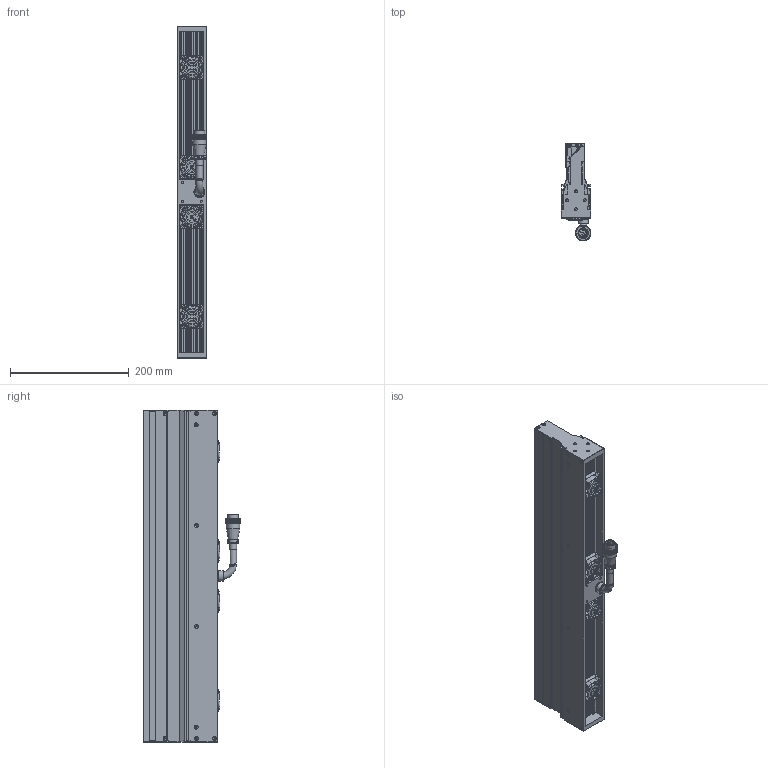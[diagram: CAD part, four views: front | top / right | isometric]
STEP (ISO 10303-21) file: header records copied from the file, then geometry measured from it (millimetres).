
FILE_DESCRIPTION (( 'STEP AP203' ), '1' );
FILE_NAME ('OPT-LSSC560-R-V3.1尨砩芞.STEP', '2025-02-19T08:27:13', ( '' ), ( '' ), 'SwSTEP 2.0', 'SolidWorks 2016', '' );
FILE_SCHEMA (( 'CONFIG_CONTROL_DESIGN' ));
Length unit declared in the file: millimetre
Products named in the file (1): OPT-LSSC560-R-V3.1尨砩芞
Bounding box: 50.6 x 164.5 x 560 mm (x, y, z)
Volume: 2152464.2 mm3; surface area: 387521.6 mm2
Topology: 25 solids, 33 shells, 2968 faces, 7706 edges, 4874 vertices
Faces by surface type: bspline 1051, cylinder 878, plane 738, torus 232, cone 69
Full cylindrical faces by diameter (mm): 1 x2, 1.6 x16, 2 x4, 2.5 x28, 3 x4, 3.2 x20, 3.4 x26, 3.5 x4, 5 x8, 6.2 x16, 8 x1, 11.6 x1, 11.7 x3, 12 x1, 15 x1, 15.9 x1, 17.5 x1, 18 x1, 18.5 x1, 22.8 x1, 24 x1, 24.8 x4, 38 x4
Entity records: 110926 total; most frequent: CARTESIAN_POINT 50420, ORIENTED_EDGE 14610, DIRECTION 8449, EDGE_CURVE 7305, VERTEX_POINT 4778, B_SPLINE_CURVE_WITH_KNOTS 4087, EDGE_LOOP 3441, AXIS2_PLACEMENT_3D 3313
